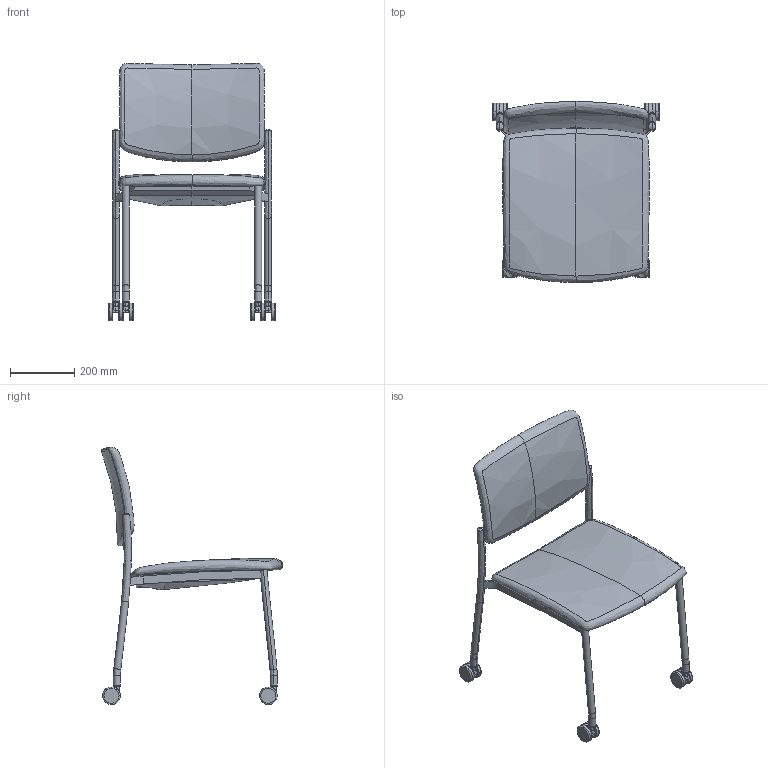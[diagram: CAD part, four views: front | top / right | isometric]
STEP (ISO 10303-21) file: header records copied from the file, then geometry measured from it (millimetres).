
FILE_DESCRIPTION(/* description */ (''),/* implementation_level */ '2;1');
FILE_NAME(/* name */ 'STE11EE',/* time_stamp */ '2021-11-22T21:50:19+01:00',/* author */ (''),/* organization */ (''),/* preprocessor_version */ 'ST-DEVELOPER v16.5',/* originating_system */ '',/* authorisation */ '');
FILE_SCHEMA (('CONFIG_CONTROL_DESIGN'));
Length unit declared in the file: millimetre
Products named in the file (1): Document
Bounding box: 520 x 564.48 x 802.07 mm (x, y, z)
Volume: 12199204.2 mm3; surface area: 1201017.8 mm2
Topology: 10 solids, 27 shells, 190 faces, 405 edges, 249 vertices
Faces by surface type: bspline 85, plane 56, cylinder 49
Entity records: 9136 total; most frequent: CARTESIAN_POINT 6501, ORIENTED_EDGE 752, EDGE_CURVE 398, VERTEX_POINT 243, ADVANCED_FACE 190, FACE_OUTER_BOUND 190, EDGE_LOOP 190, B_SPLINE_CURVE_WITH_KNOTS 178
